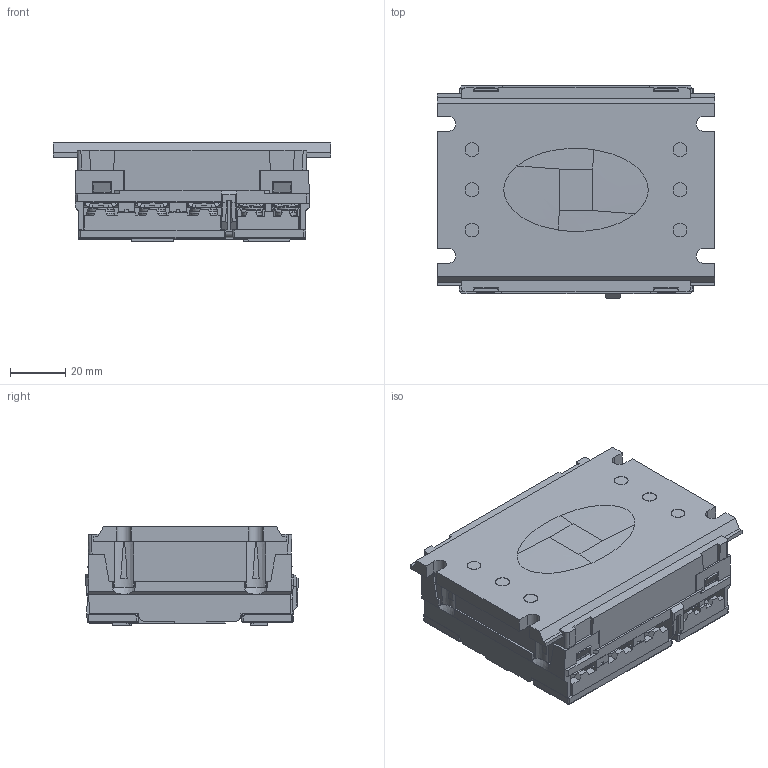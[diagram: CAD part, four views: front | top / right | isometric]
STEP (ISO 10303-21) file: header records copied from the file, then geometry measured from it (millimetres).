
FILE_DESCRIPTION(/* description */ (''),/* implementation_level */ '2;1');
FILE_NAME(/* name */ 'C:\Vault_local\Designs\Stock\20\97 Relookage triphasé 100mm\2D3D 639 A.stp',/* time_stamp */ '2017-12-14T16:11:50+01:00',/* author */ ('fbros'),/* organization */ (''),/* preprocessor_version */ 'ST-DEVELOPER v15.2',/* originating_system */ 'Autodesk Inventor 2014',/* authorisation */ '');
FILE_SCHEMA (('CONFIG_CONTROL_DESIGN'));
Products named in the file (1): 2D3D 539 A
Bounding box: 100 x 76.48 x 35.61 mm (x, y, z)
Volume: 144970.2 mm3; surface area: 67382 mm2
Topology: 7 solids, 14 shells, 3415 faces, 9927 edges, 6403 vertices
Faces by surface type: plane 2155, cylinder 555, cone 463, bspline 98, sphere 88, torus 56
Full cylindrical faces by diameter (mm): 2.35 x2, 2.95 x2, 3 x6, 3.12 x2, 3.45 x2, 3.55 x2, 4 x4, 4.38 x6, 4.6 x6, 5 x12, 7 x2, 7.5 x6, 8.4 x2
Entity records: 122005 total; most frequent: CARTESIAN_POINT 32003, ORIENTED_EDGE 19300, DIRECTION 16899, EDGE_CURVE 9640, VERTEX_POINT 6316, LINE 6245, VECTOR 6245, AXIS2_PLACEMENT_3D 5327
